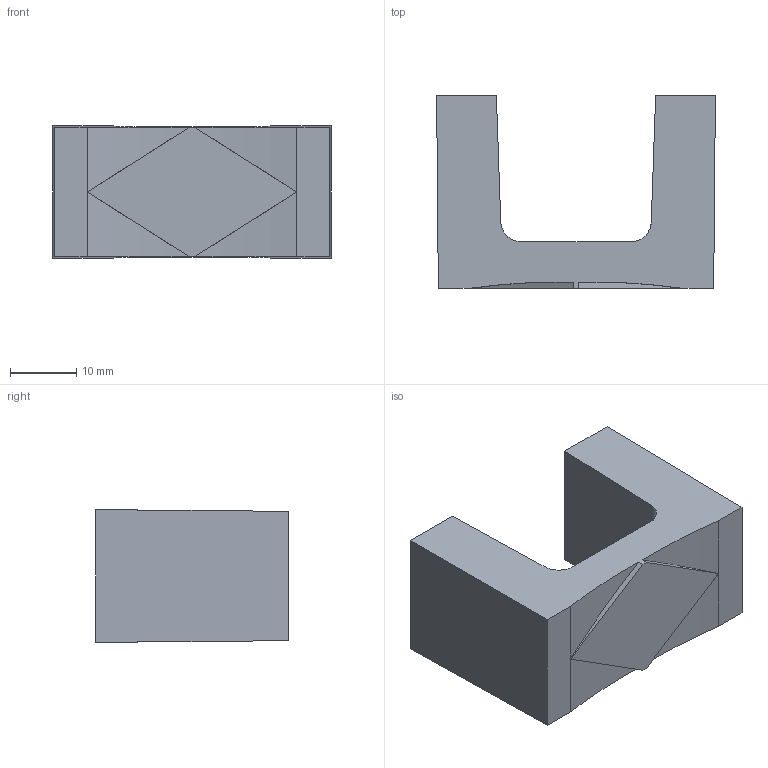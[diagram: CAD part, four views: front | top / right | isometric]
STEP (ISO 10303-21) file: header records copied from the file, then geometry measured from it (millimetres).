
FILE_DESCRIPTION( ( '' ), '1' );
FILE_NAME( 'C:/Documents and Settings/Sachin/Desktop/Sheet 10_1/stp/9118534.stp', '2013-10-22T10:39:35', ( '' ), ( '' ), ' ', ' ', ' ' );
FILE_SCHEMA( ( 'CONFIG_CONTROL_DESIGN' ) );
Length unit declared in the file: millimetre
Products named in the file (1): 1
Bounding box: 42 x 29 x 20 mm (x, y, z)
Volume: 12646.2 mm3; surface area: 6130.8 mm2
Topology: 1 solids, 1 shells, 62 faces, 162 edges, 108 vertices
Faces by surface type: plane 36, cone 16, cylinder 10
Entity records: 1962 total; most frequent: DIRECTION 340, CARTESIAN_POINT 333, ORIENTED_EDGE 324, EDGE_CURVE 162, AXIS2_PLACEMENT_3D 115, LINE 110, VECTOR 110, VERTEX_POINT 108
